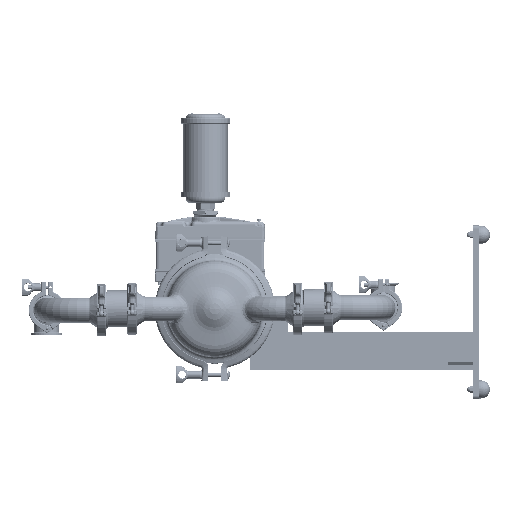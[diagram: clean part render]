
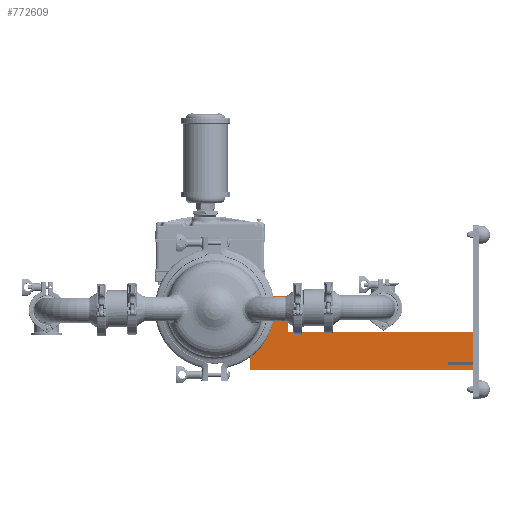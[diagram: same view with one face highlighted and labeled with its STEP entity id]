
A CAD part, left-side view. The second image highlights one B-rep face of the part: STEP entity #772609.
In plain terms, the highlighted planar face has unit normal (-1, 0, 0).
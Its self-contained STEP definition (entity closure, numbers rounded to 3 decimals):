
#550506=DIRECTION('',(0.,1.,0.));
#550507=VECTOR('',#550506,18.002);
#550508=CARTESIAN_POINT('',(-1.,-20.882,-4.898));
#550509=LINE('',#550508,#550507);
#550510=DIRECTION('',(0.,0.,1.));
#550511=VECTOR('',#550510,2.44);
#550512=CARTESIAN_POINT('',(-1.,-2.88,-4.898));
#550513=LINE('',#550512,#550511);
#550514=DIRECTION('',(0.,1.,0.));
#550515=VECTOR('',#550514,1.33);
#550516=CARTESIAN_POINT('',(-1.,-4.21,-2.458));
#550517=LINE('',#550516,#550515);
#550518=DIRECTION('',(0.,0.,-1.));
#550519=VECTOR('',#550518,0.53);
#550520=CARTESIAN_POINT('',(-1.,-4.21,-1.928));
#550521=LINE('',#550520,#550519);
#550522=DIRECTION('',(0.,-1.,0.));
#550523=VECTOR('',#550522,0.05);
#550524=CARTESIAN_POINT('',(-1.,-4.16,-1.928));
#550525=LINE('',#550524,#550523);
#550526=DIRECTION('',(0.,-1.,0.));
#550527=VECTOR('',#550526,1.28);
#550528=CARTESIAN_POINT('',(-1.,-2.88,-1.928));
#550529=LINE('',#550528,#550527);
#550530=DIRECTION('',(0.,0.,1.));
#550531=VECTOR('',#550530,2.955);
#550532=CARTESIAN_POINT('',(-1.,-2.88,-1.928));
#550533=LINE('',#550532,#550531);
#550534=DIRECTION('',(0.,-1.,0.));
#550535=VECTOR('',#550534,15.002);
#550536=CARTESIAN_POINT('',(-1.,-5.88,-1.898));
#550537=LINE('',#550536,#550535);
#550538=DIRECTION('',(0.,1.,0.));
#550539=VECTOR('',#550538,2.);
#550540=CARTESIAN_POINT('',(-1.,-20.882,-4.288));
#550541=LINE('',#550540,#550539);
#550542=DIRECTION('',(0.,0.,-1.));
#550543=VECTOR('',#550542,0.25);
#550544=CARTESIAN_POINT('',(-1.,-18.882,-4.288));
#550545=LINE('',#550544,#550543);
#550546=DIRECTION('',(0.,1.,0.));
#550547=VECTOR('',#550546,2.);
#550548=CARTESIAN_POINT('',(-1.,-20.882,-4.538));
#550549=LINE('',#550548,#550547);
#550782=DIRECTION('',(0.,0.,-1.));
#550783=VECTOR('',#550782,2.39);
#550784=CARTESIAN_POINT('',(-1.,-20.882,-1.898));
#550785=LINE('',#550784,#550783);
#550814=DIRECTION('',(0.,0.,-1.));
#550815=VECTOR('',#550814,0.36);
#550816=CARTESIAN_POINT('',(-1.,-20.882,-4.538));
#550817=LINE('',#550816,#550815);
#551358=DIRECTION('',(0.,0.,1.));
#551359=VECTOR('',#551358,2.925);
#551360=CARTESIAN_POINT('',(-1.,-5.88,-1.898));
#551361=LINE('',#551360,#551359);
#551374=DIRECTION('',(0.,-1.,0.));
#551375=VECTOR('',#551374,3.);
#551376=CARTESIAN_POINT('',(-1.,-2.88,1.027));
#551377=LINE('',#551376,#551375);
#635287=CARTESIAN_POINT('',(-1.,-20.882,-4.898));
#635289=VERTEX_POINT('',#635287);
#635292=CARTESIAN_POINT('',(-1.,-20.882,-1.898));
#635294=VERTEX_POINT('',#635292);
#635295=CARTESIAN_POINT('',(-1.,-4.21,-1.928));
#635296=CARTESIAN_POINT('',(-1.,-4.21,-2.458));
#635297=VERTEX_POINT('',#635295);
#635298=VERTEX_POINT('',#635296);
#635299=CARTESIAN_POINT('',(-1.,-2.88,-2.458));
#635300=VERTEX_POINT('',#635299);
#635320=CARTESIAN_POINT('',(-1.,-5.88,-1.898));
#635322=VERTEX_POINT('',#635320);
#635327=CARTESIAN_POINT('',(-1.,-2.88,1.027));
#635328=VERTEX_POINT('',#635327);
#635329=CARTESIAN_POINT('',(-1.,-5.88,1.027));
#635330=VERTEX_POINT('',#635329);
#635448=CARTESIAN_POINT('',(-1.,-2.88,-1.928));
#635449=CARTESIAN_POINT('',(-1.,-4.16,-1.928));
#635450=VERTEX_POINT('',#635448);
#635451=VERTEX_POINT('',#635449);
#635476=CARTESIAN_POINT('',(-1.,-20.882,-4.288));
#635478=VERTEX_POINT('',#635476);
#635480=CARTESIAN_POINT('',(-1.,-20.882,-4.538));
#635482=VERTEX_POINT('',#635480);
#635484=CARTESIAN_POINT('',(-1.,-18.882,-4.288));
#635485=VERTEX_POINT('',#635484);
#635486=CARTESIAN_POINT('',(-1.,-18.882,-4.538));
#635487=VERTEX_POINT('',#635486);
#635489=CARTESIAN_POINT('',(-1.,-2.88,-4.898));
#635491=VERTEX_POINT('',#635489);
#772574=CARTESIAN_POINT('',(-1.,-5.88,-1.898));
#772575=DIRECTION('',(-1.,0.,0.));
#772576=DIRECTION('',(0.,0.,-1.));
#772577=AXIS2_PLACEMENT_3D('',#772574,#772575,#772576);
#772578=PLANE('',#772577);
#772580=ORIENTED_EDGE('',*,*,#772579,.T.);
#772582=ORIENTED_EDGE('',*,*,#772581,.T.);
#772584=ORIENTED_EDGE('',*,*,#772583,.F.);
#772586=ORIENTED_EDGE('',*,*,#772585,.F.);
#772587=ORIENTED_EDGE('',*,*,#772565,.F.);
#772588=ORIENTED_EDGE('',*,*,#677013,.F.);
#772590=ORIENTED_EDGE('',*,*,#772589,.T.);
#772592=ORIENTED_EDGE('',*,*,#772591,.T.);
#772594=ORIENTED_EDGE('',*,*,#772593,.F.);
#772596=ORIENTED_EDGE('',*,*,#772595,.T.);
#772598=ORIENTED_EDGE('',*,*,#772597,.T.);
#772600=ORIENTED_EDGE('',*,*,#772599,.T.);
#772602=ORIENTED_EDGE('',*,*,#772601,.T.);
#772604=ORIENTED_EDGE('',*,*,#772603,.F.);
#772606=ORIENTED_EDGE('',*,*,#772605,.T.);
#772607=EDGE_LOOP('',(#772580,#772582,#772584,#772586,#772587,#772588,#772590,
#772592,#772594,#772596,#772598,#772600,#772602,#772604,#772606));
#772608=FACE_OUTER_BOUND('',#772607,.F.);
#772609=ADVANCED_FACE('',(#772608),#772578,.T.);
#677013=EDGE_CURVE('',#635450,#635451,#550529,.T.);
#772565=EDGE_CURVE('',#635451,#635297,#550525,.T.);
#772579=EDGE_CURVE('',#635289,#635491,#550509,.T.);
#772581=EDGE_CURVE('',#635491,#635300,#550513,.T.);
#772583=EDGE_CURVE('',#635298,#635300,#550517,.T.);
#772585=EDGE_CURVE('',#635297,#635298,#550521,.T.);
#772589=EDGE_CURVE('',#635450,#635328,#550533,.T.);
#772591=EDGE_CURVE('',#635328,#635330,#551377,.T.);
#772593=EDGE_CURVE('',#635322,#635330,#551361,.T.);
#772595=EDGE_CURVE('',#635322,#635294,#550537,.T.);
#772597=EDGE_CURVE('',#635294,#635478,#550785,.T.);
#772599=EDGE_CURVE('',#635478,#635485,#550541,.T.);
#772601=EDGE_CURVE('',#635485,#635487,#550545,.T.);
#772603=EDGE_CURVE('',#635482,#635487,#550549,.T.);
#772605=EDGE_CURVE('',#635482,#635289,#550817,.T.);
